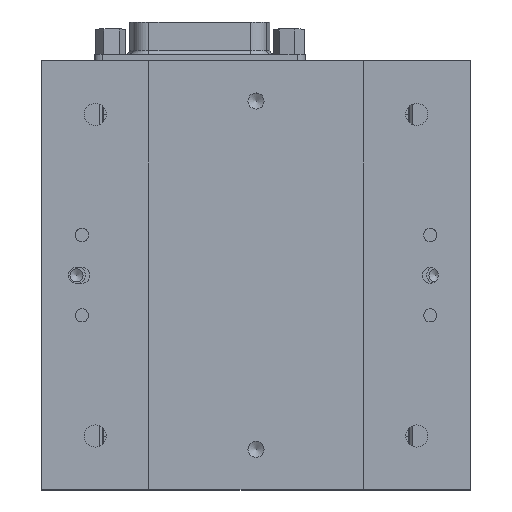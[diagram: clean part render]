
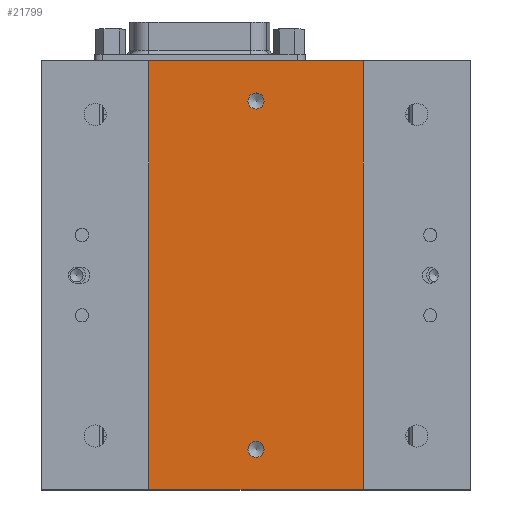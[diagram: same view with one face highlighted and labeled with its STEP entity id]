
A CAD part, top view. The second image highlights one B-rep face of the part: STEP entity #21799.
In plain terms, the highlighted planar face has unit normal (0, 0, 1) as drawn and (0, 1, 0) by its records, which use the part's own axes.
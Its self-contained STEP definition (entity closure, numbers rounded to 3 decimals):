
#1236=FACE_BOUND('',#4574,.T.);
#1237=FACE_BOUND('',#4575,.T.);
#2006=CIRCLE('',#23692,1.5);
#2009=CIRCLE('',#23697,1.5);
#3207=FACE_OUTER_BOUND('',#4573,.T.);
#4573=EDGE_LOOP('',(#18890,#18891,#18892,#18893));
#4574=EDGE_LOOP('',(#18894));
#4575=EDGE_LOOP('',(#18895));
#6254=LINE('',#38697,#7957);
#6277=LINE('',#38742,#7980);
#6279=LINE('',#38745,#7982);
#6280=LINE('',#38746,#7983);
#7957=VECTOR('',#29066,10.);
#7980=VECTOR('',#29109,10.);
#7982=VECTOR('',#29113,10.);
#7983=VECTOR('',#29114,10.);
#9928=VERTEX_POINT('',#38493);
#9932=VERTEX_POINT('',#38504);
#9998=VERTEX_POINT('',#38693);
#9999=VERTEX_POINT('',#38695);
#10010=VERTEX_POINT('',#38739);
#10011=VERTEX_POINT('',#38741);
#12859=EDGE_CURVE('',#9928,#9928,#2006,.T.);
#12864=EDGE_CURVE('',#9932,#9932,#2009,.T.);
#12957=EDGE_CURVE('',#9999,#9998,#6254,.T.);
#12980=EDGE_CURVE('',#10011,#10010,#6277,.T.);
#12982=EDGE_CURVE('',#10010,#9998,#6279,.T.);
#12983=EDGE_CURVE('',#10011,#9999,#6280,.T.);
#18890=ORIENTED_EDGE('',*,*,#12982,.T.);
#18891=ORIENTED_EDGE('',*,*,#12957,.F.);
#18892=ORIENTED_EDGE('',*,*,#12983,.F.);
#18893=ORIENTED_EDGE('',*,*,#12980,.T.);
#18894=ORIENTED_EDGE('',*,*,#12859,.T.);
#18895=ORIENTED_EDGE('',*,*,#12864,.T.);
#19556=PLANE('',#23789);
#21799=ADVANCED_FACE('',(#3207,#1236,#1237),#19556,.T.);
#23692=AXIS2_PLACEMENT_3D('',#38494,#28847,#28848);
#23697=AXIS2_PLACEMENT_3D('',#38505,#28859,#28860);
#23789=AXIS2_PLACEMENT_3D('',#38744,#29111,#29112);
#28847=DIRECTION('center_axis',(0.,-1.,0.));
#28848=DIRECTION('ref_axis',(0.,0.,
-1.));
#28859=DIRECTION('center_axis',(0.,-1.,0.));
#28860=DIRECTION('ref_axis',(0.,0.,
-1.));
#29066=DIRECTION('',(0.,0.,-1.));
#29109=DIRECTION('',(0.,0.,-1.));
#29111=DIRECTION('center_axis',(0.,1.,0.));
#29112=DIRECTION('ref_axis',(0.,0.,
-1.));
#29113=DIRECTION('',(-1.,0.,0.));
#29114=DIRECTION('',(-1.,0.,0.));
#38493=CARTESIAN_POINT('',(40.,47.5,74.));
#38494=CARTESIAN_POINT('Origin',(40.,47.5,72.5));
#38504=CARTESIAN_POINT('',(40.,47.5,9.));
#38505=CARTESIAN_POINT('Origin',(40.,47.5,7.5));
#38693=CARTESIAN_POINT('',(20.,47.5,0.));
#38695=CARTESIAN_POINT('',(20.,47.5,80.));
#38697=CARTESIAN_POINT('',(20.,47.5,80.));
#38739=CARTESIAN_POINT('',(60.,47.5,0.));
#38741=CARTESIAN_POINT('',(60.,47.5,80.));
#38742=CARTESIAN_POINT('',(60.,47.5,80.));
#38744=CARTESIAN_POINT('Origin',(40.,47.5,80.));
#38745=CARTESIAN_POINT('',(40.,47.5,0.));
#38746=CARTESIAN_POINT('',(40.,47.5,80.));
